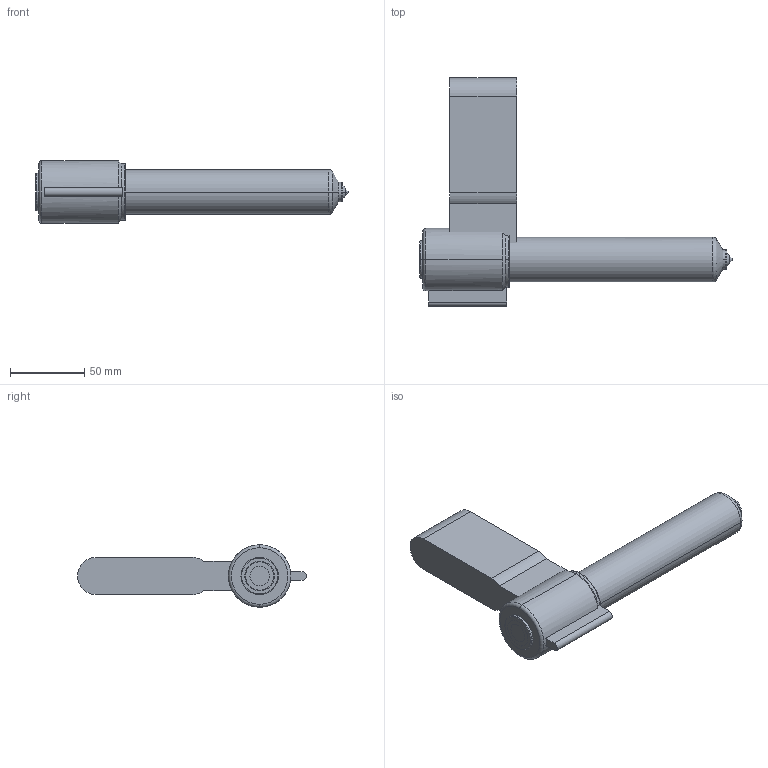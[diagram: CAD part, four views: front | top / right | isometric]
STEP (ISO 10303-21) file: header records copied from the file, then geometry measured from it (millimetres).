
FILE_DESCRIPTION (( 'STEP AP214' ), '1' );
FILE_NAME ('PLS18-170CH-1.2.STEP', '2021-06-16T08:15:30', ( '' ), ( '' ), 'SwSTEP 2.0', 'SolidWorks 2018', '' );
FILE_SCHEMA (( 'AUTOMOTIVE_DESIGN' ));
Length unit declared in the file: millimetre
Products named in the file (5): join^PLS｢ﾚ-NOZZLE-11; CC(18)-11; BODY SPRING(18-SPRING)-11; PLSＬ(18)-11; PLS18-170CH-1.2
Assembly tree (4 placements, depth 2):
  PLS18-170CH-1.2
    PLSＬ(18)-11
    BODY SPRING(18-SPRING)-11
    CC(18)-11
    join^PLS｢ﾚ-NOZZLE-11
Bounding box: 210 x 154 x 42 mm (x, y, z)
Volume: 423005.1 mm3; surface area: 71555.2 mm2
Topology: 4 solids, 4 shells, 242 faces, 600 edges, 380 vertices
Faces by surface type: cylinder 116, plane 53, torus 37, cone 32, sphere 4
Entity records: 7920 total; most frequent: CARTESIAN_POINT 1773, DIRECTION 1372, ORIENTED_EDGE 1200, EDGE_CURVE 600, AXIS2_PLACEMENT_3D 587, VERTEX_POINT 380, CIRCLE 338, EDGE_LOOP 268
